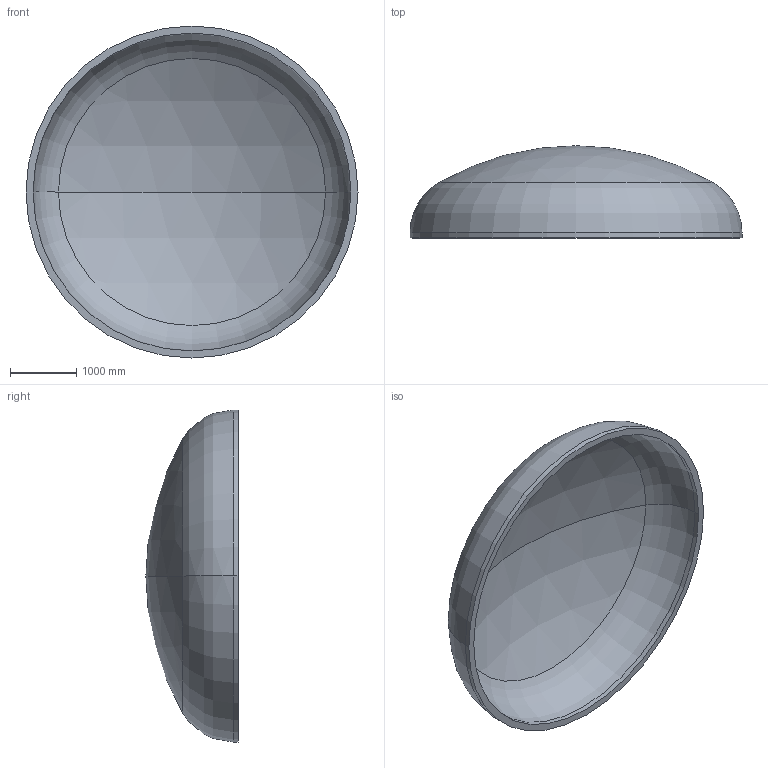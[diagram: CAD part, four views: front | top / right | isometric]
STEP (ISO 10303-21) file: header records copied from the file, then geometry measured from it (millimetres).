
FILE_DESCRIPTION (( 'STEP AP203' ), '1' );
FILE_NAME ('DIN 28013 Korbbogenform_-_Boden DIN 28013 - 5000 x 75 - I - s=106.step', '2016-07-02T00:58:03', ( '' ), ( '' ), 'SwSTEP 2.0', 'SolidWorks 2013', '' );
FILE_SCHEMA (( 'CONFIG_CONTROL_DESIGN' ));
Length unit declared in the file: millimetre
Products named in the file (1): DIN 28013 Korbbogenform_-_Boden DIN 28013 - 5000 x 75 - I - s=106
Bounding box: 5000 x 1388.95 x 5000 mm (x, y, z)
Volume: 2925535117.7 mm3; surface area: 56852033.5 mm2
Topology: 1 solids, 1 shells, 13 faces, 24 edges, 14 vertices
Faces by surface type: torus 4, cylinder 4, sphere 4, plane 1
Entity records: 407 total; most frequent: DIRECTION 72, CARTESIAN_POINT 52, ORIENTED_EDGE 48, AXIS2_PLACEMENT_3D 34, EDGE_CURVE 24, CIRCLE 20, VERTEX_POINT 14, EDGE_LOOP 14
